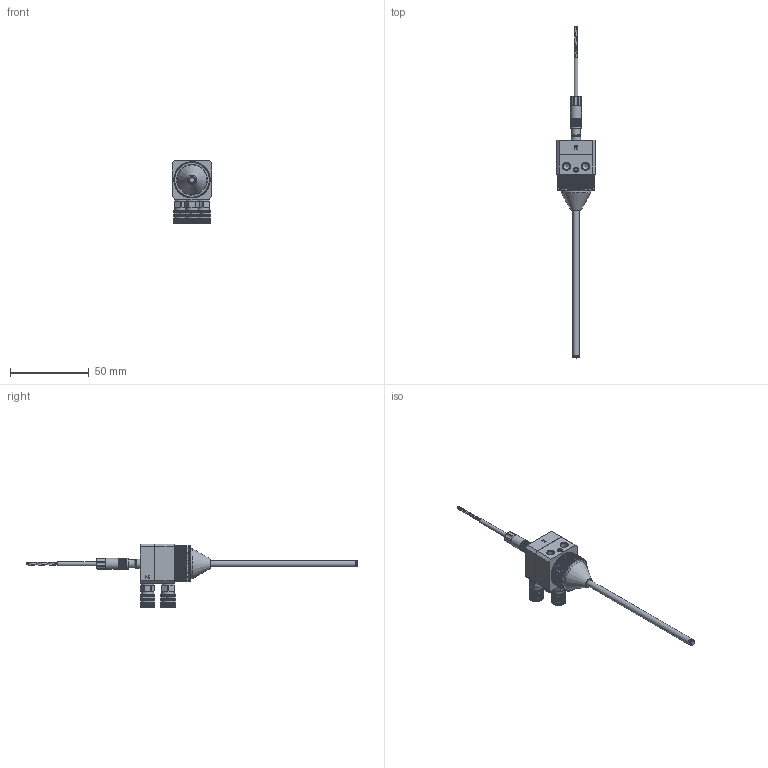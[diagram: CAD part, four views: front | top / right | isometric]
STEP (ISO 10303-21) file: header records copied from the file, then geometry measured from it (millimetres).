
FILE_DESCRIPTION (( 'STEP AP214' ), '1' );
FILE_NAME ('DAS-30-100-4-SENSOR.STEP', '2024-10-11T09:58:34', ( '' ), ( '' ), 'SwSTEP 2.0', 'SolidWorks 2024', '' );
FILE_SCHEMA (( 'AUTOMOTIVE_DESIGN' ));
Length unit declared in the file: millimetre
Products named in the file (1): DAS-30-100-4-SENSOR
Bounding box: 25 x 210.5 x 40.5 mm (x, y, z)
Volume: 22954.6 mm3; surface area: 12565.2 mm2
Topology: 2 solids, 2 shells, 1686 faces, 4525 edges, 2911 vertices
Faces by surface type: plane 1000, cylinder 434, cone 236, bspline 16
Full cylindrical faces by diameter (mm): 0.2 x8, 0.5 x1, 1.5 x4, 2 x1, 2.4 x1, 2.5 x1, 3 x3, 3.3 x1, 4 x6, 4.198 x2, 4.2 x2, 5.2 x2, 5.4 x1, 5.5 x4, 5.7 x3, 6 x1, 6.2 x3, 7 x2, 7.998 x3, 8 x8, 8.001 x1, 8.7 x3, 12 x1, 18.8 x1, 19 x1, 19.2 x1, 19.8 x1, 20.2 x1, 21 x2, 21.2 x1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
Entity records: 62725 total; most frequent: CARTESIAN_POINT 22307, ORIENTED_EDGE 8626, DIRECTION 7976, EDGE_CURVE 4313, VERTEX_POINT 2835, AXIS2_PLACEMENT_3D 2800, VECTOR 2376, LINE 2376
